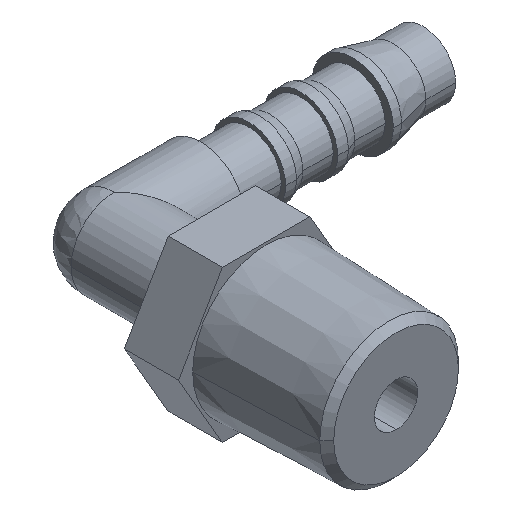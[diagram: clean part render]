
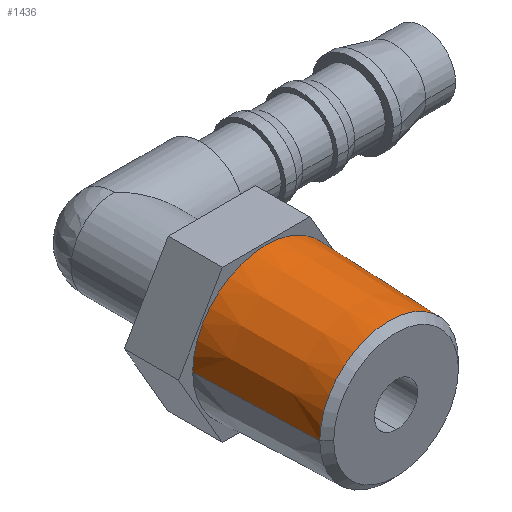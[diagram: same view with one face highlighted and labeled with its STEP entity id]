
A CAD part, isometric view. The second image highlights one B-rep face of the part: STEP entity #1436.
In plain terms, the highlighted conical face has half-angle 1.892 degrees and reference radius 6.588 mm.
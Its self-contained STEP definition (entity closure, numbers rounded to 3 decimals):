
#518=CARTESIAN_POINT('',(0.,-14.,0.));
#519=DIRECTION('',(0.,-1.,0.));
#520=DIRECTION('',(1.,0.,0.));
#521=AXIS2_PLACEMENT_3D('',#518,#519,#520);
#576=DIRECTION('',(0.033,0.999,0.));
#577=VECTOR('',#576,11.361);
#578=CARTESIAN_POINT('',(6.4,-25.355,0.));
#579=LINE('',#578,#577);
#583=CARTESIAN_POINT('',(0.,-25.355,0.));
#584=DIRECTION('',(0.,-1.,0.));
#585=DIRECTION('',(1.,0.,0.));
#586=AXIS2_PLACEMENT_3D('',#583,#584,#585);
#591=DIRECTION('',(-0.033,0.999,0.));
#592=VECTOR('',#591,11.361);
#593=CARTESIAN_POINT('',(-6.4,-25.355,0.));
#594=LINE('',#593,#592);
#883=CARTESIAN_POINT('',(6.4,-25.355,0.));
#885=VERTEX_POINT('',#883);
#886=CARTESIAN_POINT('',(6.775,-14.,0.));
#887=VERTEX_POINT('',#886);
#889=CARTESIAN_POINT('',(-6.4,-25.355,0.));
#891=VERTEX_POINT('',#889);
#892=CARTESIAN_POINT('',(-6.775,-14.,0.));
#893=VERTEX_POINT('',#892);
#1422=CARTESIAN_POINT('',(0.,-19.678,0.));
#1423=DIRECTION('',(0.,1.,0.));
#1424=DIRECTION('',(1.,0.,0.));
#1425=AXIS2_PLACEMENT_3D('',#1422,#1423,#1424);
#1426=CONICAL_SURFACE('',#1425,6.588,1.892);
#1428=ORIENTED_EDGE('',*,*,#1427,.F.);
#1430=ORIENTED_EDGE('',*,*,#1429,.T.);
#1432=ORIENTED_EDGE('',*,*,#1431,.T.);
#1433=ORIENTED_EDGE('',*,*,#1415,.F.);
#1434=EDGE_LOOP('',(#1428,#1430,#1432,#1433));
#1435=FACE_OUTER_BOUND('',#1434,.F.);
#1436=ADVANCED_FACE('',(#1435),#1426,.T.);
#522=CIRCLE('',#521,6.775);
#587=CIRCLE('',#586,6.4);
#1415=EDGE_CURVE('',#887,#893,#522,.T.);
#1427=EDGE_CURVE('',#885,#887,#579,.T.);
#1429=EDGE_CURVE('',#885,#891,#587,.T.);
#1431=EDGE_CURVE('',#891,#893,#594,.T.);
